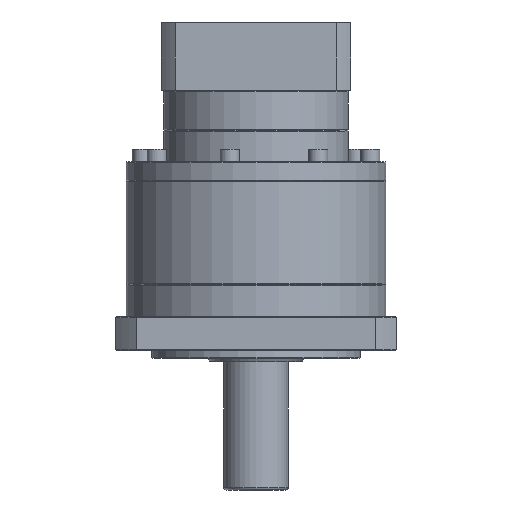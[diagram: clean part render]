
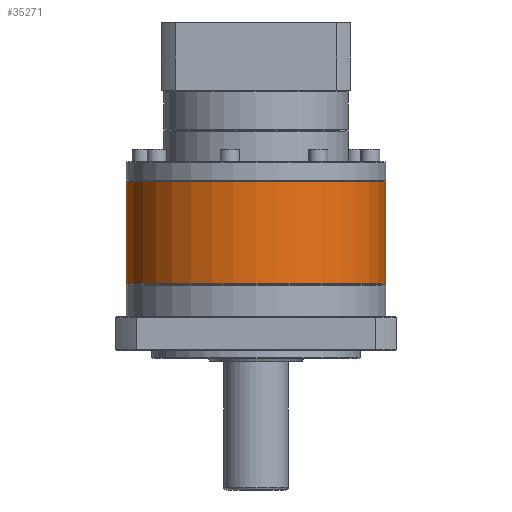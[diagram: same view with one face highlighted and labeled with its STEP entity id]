
A CAD part, front view. The second image highlights one B-rep face of the part: STEP entity #35271.
In plain terms, the highlighted cylindrical face has radius 81 mm (diameter 162 mm), a partial arc.
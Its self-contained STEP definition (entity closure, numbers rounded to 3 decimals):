
#1666 = CARTESIAN_POINT ( 'NONE',  ( -136.343, 94.399, -92.147 ) ) ;
#7100 = ORIENTED_EDGE ( 'NONE', *, *, #75054, .F. ) ;
#9886 = FACE_OUTER_BOUND ( 'NONE', #48050, .T. ) ;
#20766 = DIRECTION ( 'NONE',  ( 0., 0., -1. ) ) ;
#23235 = CIRCLE ( 'NONE', #86473, 81. ) ;
#23830 = DIRECTION ( 'NONE',  ( -1., 0., 0. ) ) ;
#31548 = LINE ( 'NONE', #76597, #81539 ) ;
#32408 = EDGE_CURVE ( 'NONE', #136431, #131799, #90592, .T. ) ;
#34067 = AXIS2_PLACEMENT_3D ( 'NONE', #1666, #112104, #23830 ) ;
#34195 = DIRECTION ( 'NONE',  ( 0., 0., -1. ) ) ;
#35271 = ADVANCED_FACE ( 'NONE', ( #9886 ), #115199, .T. ) ;
#38162 = DIRECTION ( 'NONE',  ( 0., 0., 1. ) ) ;
#48050 = EDGE_LOOP ( 'NONE', ( #7100, #124802, #65019, #69992 ) ) ;
#53493 = CARTESIAN_POINT ( 'NONE',  ( -217.343, 94.399, -92.647 ) ) ;
#55891 = DIRECTION ( 'NONE',  ( 0., 0., -1. ) ) ;
#57322 = LINE ( 'NONE', #66019, #62449 ) ;
#62449 = VECTOR ( 'NONE', #34195, 1000. ) ;
#65019 = ORIENTED_EDGE ( 'NONE', *, *, #121845, .T. ) ;
#66019 = CARTESIAN_POINT ( 'NONE',  ( -55.343, 94.399, -92.147 ) ) ;
#67023 = VERTEX_POINT ( 'NONE', #53493 ) ;
#69344 = VERTEX_POINT ( 'NONE', #129038 ) ;
#69992 = ORIENTED_EDGE ( 'NONE', *, *, #32408, .T. ) ;
#70450 = AXIS2_PLACEMENT_3D ( 'NONE', #71389, #38162, #115375 ) ;
#71389 = CARTESIAN_POINT ( 'NONE',  ( -136.343, 94.399, -156.147 ) ) ;
#75054 = EDGE_CURVE ( 'NONE', #69344, #131799, #57322, .T. ) ;
#76597 = CARTESIAN_POINT ( 'NONE',  ( -217.343, 94.399, -92.147 ) ) ;
#81539 = VECTOR ( 'NONE', #55891, 1000. ) ;
#86473 = AXIS2_PLACEMENT_3D ( 'NONE', #131265, #20766, #97411 ) ;
#90592 = CIRCLE ( 'NONE', #70450, 81. ) ;
#97411 = DIRECTION ( 'NONE',  ( -1., 0., 0. ) ) ;
#100488 = CARTESIAN_POINT ( 'NONE',  ( -217.343, 94.399, -156.147 ) ) ;
#112104 = DIRECTION ( 'NONE',  ( 0., 0., -1. ) ) ;
#115199 = CYLINDRICAL_SURFACE ( 'NONE', #34067, 81. ) ;
#115375 = DIRECTION ( 'NONE',  ( -1., 0., 0. ) ) ;
#117612 = CARTESIAN_POINT ( 'NONE',  ( -55.343, 94.399, -156.147 ) ) ;
#121845 = EDGE_CURVE ( 'NONE', #67023, #136431, #31548, .T. ) ;
#124802 = ORIENTED_EDGE ( 'NONE', *, *, #139111, .T. ) ;
#129038 = CARTESIAN_POINT ( 'NONE',  ( -55.343, 94.399, -92.647 ) ) ;
#131265 = CARTESIAN_POINT ( 'NONE',  ( -136.343, 94.399, -92.647 ) ) ;
#131799 = VERTEX_POINT ( 'NONE', #117612 ) ;
#136431 = VERTEX_POINT ( 'NONE', #100488 ) ;
#139111 = EDGE_CURVE ( 'NONE', #69344, #67023, #23235, .T. ) ;
